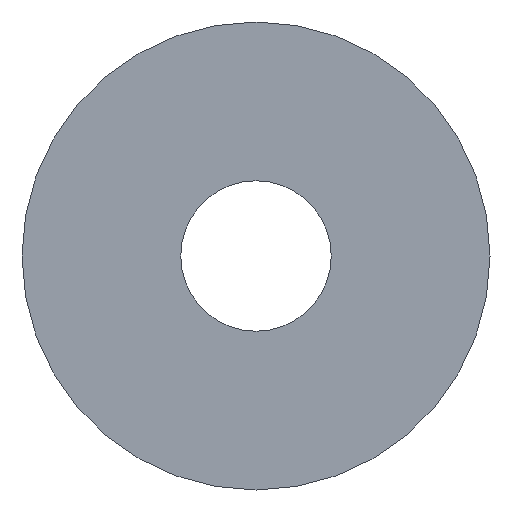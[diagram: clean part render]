
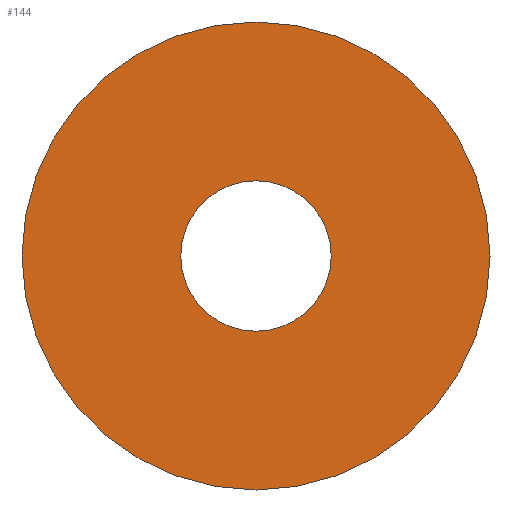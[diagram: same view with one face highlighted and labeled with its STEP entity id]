
A CAD part, left-side view. The second image highlights one B-rep face of the part: STEP entity #144.
In plain terms, the highlighted planar face has unit normal (-1, 0, 0).
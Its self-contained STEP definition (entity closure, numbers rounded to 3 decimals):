
#31 = CYLINDRICAL_SURFACE('',#32,7.);
#32 = AXIS2_PLACEMENT_3D('',#33,#34,#35);
#33 = CARTESIAN_POINT('',(85.175,0.,-183.));
#34 = DIRECTION('',(1.,0.,0.));
#35 = DIRECTION('',(-0.,0.,1.));
#56 = VERTEX_POINT('',#57);
#57 = CARTESIAN_POINT('',(85.175,0.,-176.));
#78 = EDGE_CURVE('',#56,#56,#79,.T.);
#79 = SURFACE_CURVE('',#80,(#85,#92),.PCURVE_S1.);
#80 = CIRCLE('',#81,7.);
#81 = AXIS2_PLACEMENT_3D('',#82,#83,#84);
#82 = CARTESIAN_POINT('',(85.175,0.,-183.));
#83 = DIRECTION('',(1.,0.,0.));
#84 = DIRECTION('',(-0.,0.,1.));
#85 = PCURVE('',#31,#86);
#86 = DEFINITIONAL_REPRESENTATION('',(#87),#91);
#87 = LINE('',#88,#89);
#88 = CARTESIAN_POINT('',(0.,0.));
#89 = VECTOR('',#90,1.);
#90 = DIRECTION('',(1.,0.));
#91 = ( GEOMETRIC_REPRESENTATION_CONTEXT(2) 
PARAMETRIC_REPRESENTATION_CONTEXT() REPRESENTATION_CONTEXT('2D SPACE',''
  ) );
#92 = PCURVE('',#93,#98);
#93 = PLANE('',#94);
#94 = AXIS2_PLACEMENT_3D('',#95,#96,#97);
#95 = CARTESIAN_POINT('',(85.175,0.,-183.));
#96 = DIRECTION('',(1.,0.,0.));
#97 = DIRECTION('',(-0.,0.,1.));
#98 = DEFINITIONAL_REPRESENTATION('',(#99),#103);
#99 = CIRCLE('',#100,7.);
#100 = AXIS2_PLACEMENT_2D('',#101,#102);
#101 = CARTESIAN_POINT('',(0.,0.));
#102 = DIRECTION('',(1.,0.));
#103 = ( GEOMETRIC_REPRESENTATION_CONTEXT(2) 
PARAMETRIC_REPRESENTATION_CONTEXT() REPRESENTATION_CONTEXT('2D SPACE',''
  ) );
#133 = CYLINDRICAL_SURFACE('',#134,2.25);
#134 = AXIS2_PLACEMENT_3D('',#135,#136,#137);
#135 = CARTESIAN_POINT('',(90.,0.,-183.));
#136 = DIRECTION('',(-1.,0.,0.));
#137 = DIRECTION('',(0.,0.,-1.));
#144 = ADVANCED_FACE('',(#145,#148),#93,.F.);
#145 = FACE_BOUND('',#146,.F.);
#146 = EDGE_LOOP('',(#147));
#147 = ORIENTED_EDGE('',*,*,#78,.T.);
#148 = FACE_BOUND('',#149,.F.);
#149 = EDGE_LOOP('',(#150));
#150 = ORIENTED_EDGE('',*,*,#151,.T.);
#151 = EDGE_CURVE('',#152,#152,#154,.T.);
#152 = VERTEX_POINT('',#153);
#153 = CARTESIAN_POINT('',(85.175,0.,-185.25));
#154 = SURFACE_CURVE('',#155,(#160,#171),.PCURVE_S1.);
#155 = CIRCLE('',#156,2.25);
#156 = AXIS2_PLACEMENT_3D('',#157,#158,#159);
#157 = CARTESIAN_POINT('',(85.175,0.,-183.));
#158 = DIRECTION('',(-1.,0.,0.));
#159 = DIRECTION('',(0.,0.,-1.));
#160 = PCURVE('',#93,#161);
#161 = DEFINITIONAL_REPRESENTATION('',(#162),#170);
#162 = ( BOUNDED_CURVE() B_SPLINE_CURVE(2,(#163,#164,#165,#166,#167,#168
,#169),.UNSPECIFIED.,.T.,.F.) B_SPLINE_CURVE_WITH_KNOTS((1,2,2,2,2,1),(
    -2.094,0.,2.094,4.189,6.283,
8.378),.UNSPECIFIED.) CURVE() GEOMETRIC_REPRESENTATION_ITEM() 
RATIONAL_B_SPLINE_CURVE((1.,0.5,1.,0.5,1.,0.5,1.)) REPRESENTATION_ITEM(
  '') );
#163 = CARTESIAN_POINT('',(-2.25,0.));
#164 = CARTESIAN_POINT('',(-2.25,3.897));
#165 = CARTESIAN_POINT('',(1.125,1.949));
#166 = CARTESIAN_POINT('',(4.5,0.));
#167 = CARTESIAN_POINT('',(1.125,-1.949));
#168 = CARTESIAN_POINT('',(-2.25,-3.897));
#169 = CARTESIAN_POINT('',(-2.25,0.));
#170 = ( GEOMETRIC_REPRESENTATION_CONTEXT(2) 
PARAMETRIC_REPRESENTATION_CONTEXT() REPRESENTATION_CONTEXT('2D SPACE',''
  ) );
#171 = PCURVE('',#133,#172);
#172 = DEFINITIONAL_REPRESENTATION('',(#173),#177);
#173 = LINE('',#174,#175);
#174 = CARTESIAN_POINT('',(0.,4.825));
#175 = VECTOR('',#176,1.);
#176 = DIRECTION('',(1.,0.));
#177 = ( GEOMETRIC_REPRESENTATION_CONTEXT(2) 
PARAMETRIC_REPRESENTATION_CONTEXT() REPRESENTATION_CONTEXT('2D SPACE',''
  ) );
